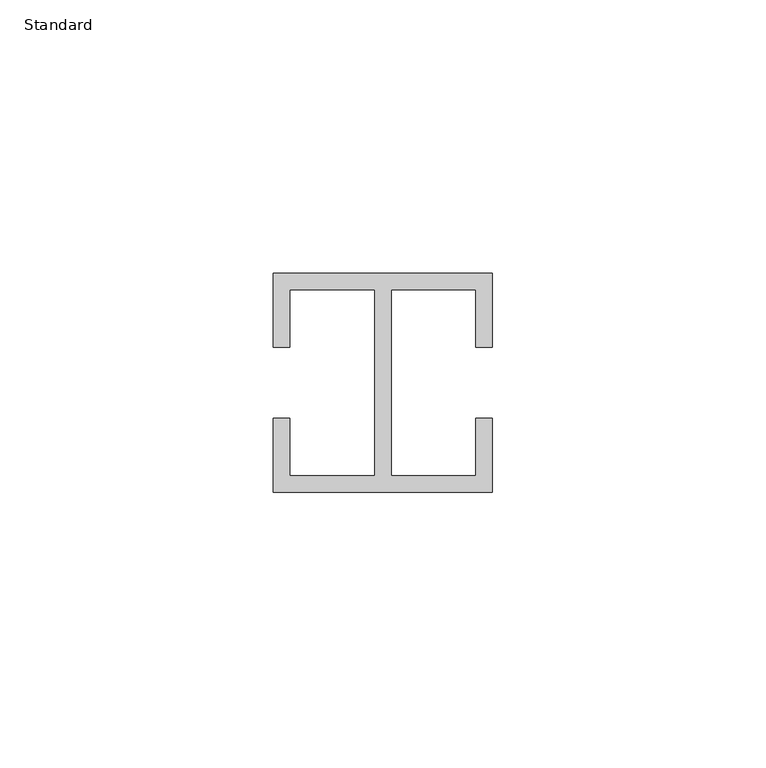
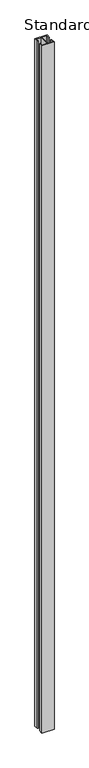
"""IFC4 building model written with IfcOpenShell, lengths in millimetres: furniture geometry, X_Partition-Channel-Duracube-Post : Standard."""

from ifc_helpers import new_model, si_unit, origin, origin_with_axes, place, context, project, spatial, polyline, outline, extrude, source, transform, mapped, element, save


def standard_78bdb009(model_context):
    return source(origin(), model_context, "Body", "SweptSolid", [
        extrude(outline(polyline([(64.7003264, -40.0), (24.7003264, -40.0), (24.7003264, -26.5), (27.7003264, -26.5), (27.7003264, -37.0), (43.2003264, -37.0), (43.2003264, -3.0), (27.7003264, -3.0), (27.7003264, -13.5), (24.7003264, -13.5), (24.7003264, 0.0), (64.7003264, 0.0), (64.7003264, -13.5), (61.7003264, -13.5), (61.7003264, -3.0), (46.2003264, -3.0), (46.2003264, -37.0), (61.7003264, -37.0), (61.7003264, -26.5), (64.7003264, -26.5), (64.7003264, -40.0)])), origin_with_axes(), (0.0, 0.0, 1.0), 2400.0),
    ])


if __name__ == "__main__":
    model = new_model("IFC4")
    model_context = context("Model", 3, world=origin())
    ifc_project = project(units=[si_unit("LENGTHUNIT", "METRE", prefix="MILLI")], contexts=[model_context])
    site = spatial("IfcSite", under=ifc_project)
    building = spatial("IfcBuilding", under=site)
    placement = place(None, origin())
    standard_shape = standard_78bdb009(model_context)
    element("IfcFurniture", 1, ObjectType="X_Partition-Channel-Duracube-Post : Standard", at=placement, inside=building, context=model_context, shape_type="MappedRepresentation", body=[
        mapped(standard_shape, transform((0.0, 0.0, 0.0), x_axis=(1.0, 0.0, 0.0), y_axis=(0.0, 1.0, 0.0), z_axis=(0.0, 0.0, 1.0))),
    ])
    save(model, "model.ifc")
